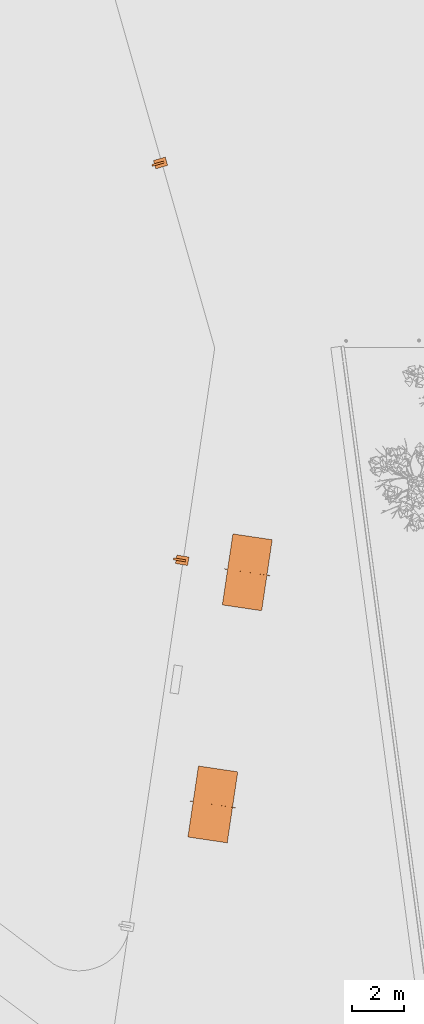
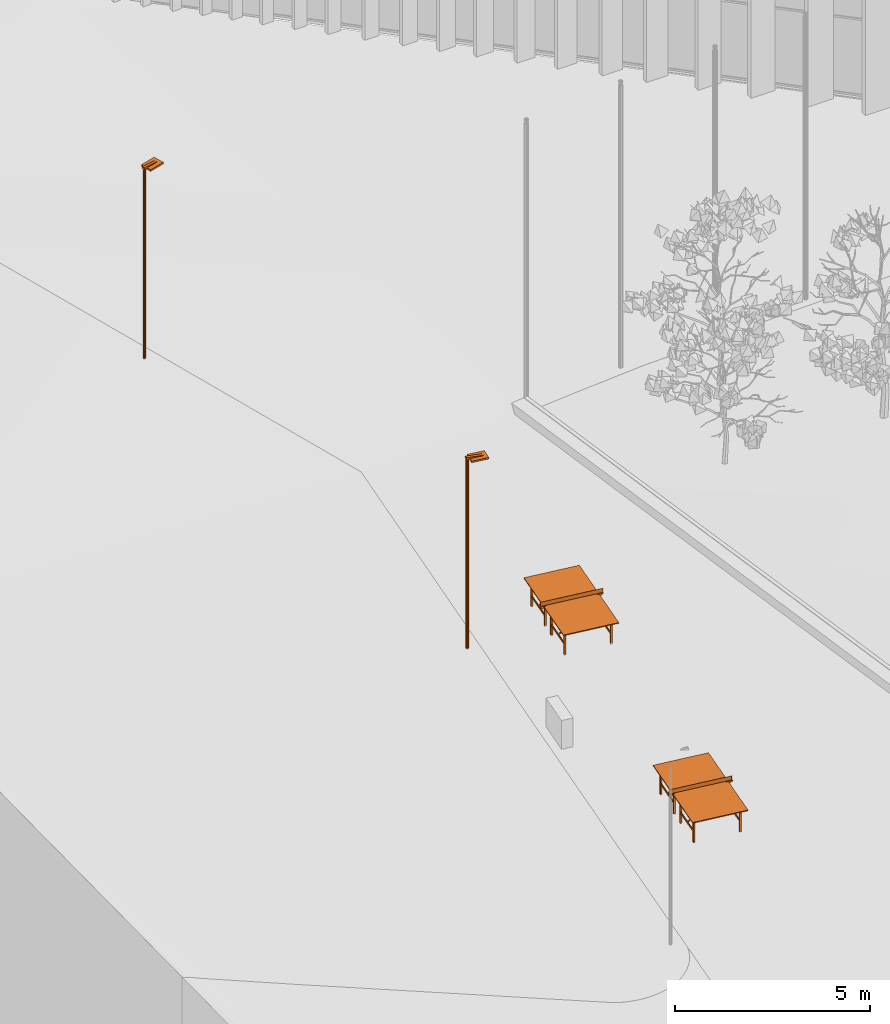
# One storey, part 204 of 246: 4 proxies.
"""IFC2X3 building model written with IfcOpenShell, lengths in millimetres."""

from ifc_helpers import new_model, entity, si_unit, converted_unit, derived_unit, money_unit, direction, frame, origin_with_axes, place, context, subcontext, project, spatial, faceted_brep, source, transform, mapped, material, type_object, element, save


model = new_model("IFC2X3")

# Units and contexts
model_context = context("Model", 3, precision=0.01, world=origin_with_axes(), true_north=direction((0.0, 1.0)))
body_context = subcontext(model_context, "Body", "Model", "MODEL_VIEW")
ifc_project = project(units=[si_unit("LENGTHUNIT", "METRE", prefix="MILLI"), si_unit("AREAUNIT", "SQUARE_METRE"), si_unit("VOLUMEUNIT", "CUBIC_METRE"), converted_unit("PLANEANGLEUNIT", "DEGREE", entity("IfcPlaneAngleMeasure", 0.0174532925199), si_unit("PLANEANGLEUNIT", "RADIAN"), dimensions=[0, 0, 0, 0, 0, 0, 0]), si_unit("SOLIDANGLEUNIT", "STERADIAN"), money_unit("EUR"), converted_unit("TIMEUNIT", "Year", entity("IfcTimeMeasure", 31556926.0), si_unit("TIMEUNIT", "SECOND"), dimensions=[0, 0, 1, 0, 0, 0, 0]), si_unit("MASSUNIT", "GRAM", prefix="KILO"), si_unit("THERMODYNAMICTEMPERATUREUNIT", "DEGREE_CELSIUS"), si_unit("LUMINOUSINTENSITYUNIT", "LUMEN"), si_unit("ENERGYUNIT", "JOULE", prefix="MEGA"), derived_unit("THERMALCONDUCTANCEUNIT", [(si_unit("POWERUNIT", "WATT"), 1), (si_unit("LENGTHUNIT", "METRE"), -1), (si_unit("THERMODYNAMICTEMPERATUREUNIT", "KELVIN"), -1)]), derived_unit("SPECIFICHEATCAPACITYUNIT", [(si_unit("ENERGYUNIT", "JOULE"), 1), (si_unit("MASSUNIT", "GRAM", prefix="KILO"), -1), (si_unit("THERMODYNAMICTEMPERATUREUNIT", "KELVIN"), -1)]), derived_unit("MASSDENSITYUNIT", [(si_unit("MASSUNIT", "GRAM", prefix="KILO"), 1), (si_unit("VOLUMEUNIT", "CUBIC_METRE"), -1)])], contexts=[model_context])

# Site, building, storey
site_placement = place(None, origin_with_axes())
site = spatial("IfcSite", under=ifc_project, at=site_placement, Name="L.Koidula tn 11b", CompositionType="ELEMENT")
building_placement = place(site_placement, origin_with_axes())
building = spatial("IfcBuilding", under=site, at=building_placement, Name="Rakvere Riigigümnaasium", CompositionType="ELEMENT")
storey_placement = place(building_placement, origin_with_axes())
storey = spatial("IfcBuildingStorey", under=building, at=storey_placement, Name="1.korrus 0,00", CompositionType="ELEMENT", Elevation=0.0)

# Proxies
ifc_material = material(Name="Alumiiniumprofiil (RAL 7021)")
building_element_proxy_type_1 = type_object("IfcBuildingElementProxyType", Name="Väls valgusti - VFL530 LED", PredefinedType="NOTDEFINED")
shared_shape_1 = source(origin_with_axes(), body_context, "Body", "Brep", [
    faceted_brep([(468.863076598, 125.0, 5952.26982842), (468.863076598, 205.0, 5952.26982842), (470.0, 205.0, 5967.74900907), (470.0, 125.0, 5967.74900907), (100.0, 205.0, 5952.26982842), (100.0, 125.0, 5952.26982842), (100.0, 205.0, 5944.7902874), (-3.66256168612, 205.0, 5952.40415243), (0.0, 205.0, 6002.26982842), (0.0, 125.0, 6002.26982842), (-3.66256168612, 125.0, 5952.40415243), (100.0, 125.0, 5944.7902874)], [[[0, 1, 2, 3]], [[4, 1, 0, 5]], [[4, 6, 7, 8, 2, 1]], [[2, 8, 9, 3]], [[5, 0, 3, 9, 10, 11]], [[6, 4, 5, 11]], [[6, 11, 10, 7]], [[8, 7, 10, 9]]]),
    faceted_brep([(100.0, 330.0, 5902.26982842), (100.0, 0.0, 5902.26982842), (100.0, 0.0, 5952.26982842), (100.0, 330.0, 5952.26982842), (570.0, 330.0, 5902.26982842), (570.0, 0.0, 5902.26982842), (570.0, 0.0, 5952.26982842), (570.0, 330.0, 5952.26982842)], [[[0, 1, 2, 3]], [[0, 4, 5, 1]], [[1, 5, 6, 2]], [[3, 2, 6, 7]], [[4, 0, 3, 7]], [[5, 4, 7, 6]]]),
    faceted_brep([(76.9551813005, 180.307337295, 5946.48289596), (80.0, 165.0, 5946.25925843), (80.0, 165.0, 0.0), (76.9551813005, 180.307337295, 0.0), (76.9551813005, 149.692662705, 5946.48289596), (68.2842712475, 193.284271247, 5947.11976174), (55.3073372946, 201.9551813, 5948.07289875), (40.0, 205.0, 5949.19720051), (24.6926627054, 201.9551813, 5950.32150226), (11.7157287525, 193.284271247, 5951.27463927), (3.04481869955, 180.307337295, 5951.91150505), (0.0, 165.0, 5952.13514258), (3.04481869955, 149.692662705, 5951.91150505), (11.7157287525, 136.715728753, 5951.27463927), (24.6926627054, 128.0448187, 5950.32150226), (40.0, 125.0, 5949.19720051), (55.3073372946, 128.0448187, 5948.07289875), (68.2842712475, 136.715728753, 5947.11976174), (76.9551813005, 149.692662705, 0.0), (3.04481869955, 149.692662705, 0.0), (0.0, 165.0, 0.0), (3.04481869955, 180.307337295, 0.0), (11.7157287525, 193.284271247, 0.0), (24.6926627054, 201.9551813, 0.0), (40.0, 205.0, 0.0), (55.3073372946, 201.9551813, 0.0), (68.2842712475, 193.284271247, 0.0), (68.2842712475, 136.715728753, 0.0), (55.3073372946, 128.0448187, 0.0), (40.0, 125.0, 0.0), (24.6926627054, 128.0448187, 0.0), (11.7157287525, 136.715728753, 0.0)], [[[0, 1, 2, 3]], [[4, 1, 0, 5, 6, 7, 8, 9, 10, 11, 12, 13, 14, 15, 16, 17]], [[1, 4, 18, 2]], [[19, 20, 21, 22, 23, 24, 25, 26, 3, 2, 18, 27, 28, 29, 30, 31]], [[5, 0, 3, 26]], [[6, 5, 26, 25]], [[7, 6, 25, 24]], [[8, 7, 24, 23]], [[9, 8, 23, 22]], [[10, 9, 22, 21]], [[11, 10, 21, 20]], [[12, 11, 20, 19]], [[13, 12, 19, 31]], [[14, 13, 31, 30]], [[15, 14, 30, 29]], [[16, 15, 29, 28]], [[17, 16, 28, 27]], [[4, 17, 27, 18]]]),
])
for number, where, z_axis, x_axis in (
    (1, (9200.68128242, 33636.8748979, -774.533350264), (0.0, 0.0, 1.0), (0.986503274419, -0.16374153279, 0.0)),
    (2, (8450.51656386, 48733.3696778, -584.74365252), (0.0, 0.0, 1.0), (0.961134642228, 0.276080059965, 0.0)),
):
    element("IfcBuildingElementProxy", number, at=place(storey_placement, frame(where, z_axis=z_axis, x_axis=x_axis)), inside=storey, type_object=building_element_proxy_type_1, material=ifc_material, Name="Tänava valgusti", context=body_context, shape_type="MappedRepresentation", body=[
        mapped(shared_shape_1, transform((0.0, 0.0, 0.0))),
    ])
building_element_proxy_type_2 = type_object("IfcBuildingElementProxyType", Name="Table Tennis 23", PredefinedType="NOTDEFINED")
shared_shape_2 = source(origin_with_axes(), body_context, "Body", "Brep", [
    faceted_brep([(-1127.0, -662.5, 0.0), (-1127.0, -612.5, 0.0), (-1127.0, -612.5, 762.0), (-1127.0, -662.5, 762.0), (-1177.0, -662.5, 0.0), (-1177.0, -612.5, 0.0), (-1177.0, -612.5, 762.0), (-1177.0, -662.5, 762.0)], [[[0, 1, 2, 3]], [[0, 4, 5, 1]], [[1, 5, 6, 2]], [[3, 2, 6, 7]], [[4, 0, 3, 7]], [[5, 4, 7, 6]]]),
    faceted_brep([(-200.0, -662.5, 0.0), (-200.0, -612.5, 0.0), (-200.0, -612.5, 762.0), (-200.0, -662.5, 762.0), (-250.0, -662.5, 0.0), (-250.0, -612.5, 0.0), (-250.0, -612.5, 762.0), (-250.0, -662.5, 762.0)], [[[0, 1, 2, 3]], [[0, 4, 5, 1]], [[1, 5, 6, 2]], [[3, 2, 6, 7]], [[4, 0, 3, 7]], [[5, 4, 7, 6]]]),
    faceted_brep([(-1127.0, -650.0, 300.0), (-250.0, -650.0, 300.0), (-250.0, -650.0, 350.0), (-1127.0, -650.0, 350.0), (-1127.0, -625.0, 300.0), (-250.0, -625.0, 300.0), (-250.0, -625.0, 350.0), (-1127.0, -625.0, 350.0)], [[[0, 1, 2, 3]], [[0, 4, 5, 1]], [[1, 5, 6, 2]], [[3, 2, 6, 7]], [[4, 0, 3, 7]], [[5, 4, 7, 6]]]),
    faceted_brep([(-738.5, -25.0, 732.0), (-638.5, -25.0, 732.0), (-638.5, -25.0, 762.0), (-738.5, -25.0, 762.0), (-738.5, 0.0, 732.0), (-638.5, 0.0, 732.0), (-638.5, 0.0, 762.0), (-738.5, 0.0, 762.0)], [[[0, 1, 2, 3]], [[0, 4, 5, 1]], [[1, 5, 6, 2]], [[3, 2, 6, 7]], [[4, 0, 3, 7]], [[5, 4, 7, 6]]]),
    faceted_brep([(-708.5, 0.0, 732.0), (-708.5, 615.0, 332.0), (-668.5, 615.0, 332.0), (-668.5, 0.0, 732.0), (-708.5, 25.0, 732.0), (-708.5, 615.0, 350.0), (-668.5, 615.0, 350.0), (-668.5, 25.0, 732.0)], [[[0, 1, 2, 3]], [[0, 4, 5, 1]], [[1, 5, 6, 2]], [[3, 2, 6, 7]], [[4, 0, 3, 7]], [[5, 4, 7, 6]]]),
    faceted_brep([(-718.5, 615.0, 307.0), (-718.5, 625.0, 307.0), (-658.5, 625.0, 307.0), (-658.5, 615.0, 307.0), (-718.5, 615.0, 350.0), (-718.5, 625.0, 350.0), (-658.5, 625.0, 350.0), (-658.5, 615.0, 350.0)], [[[0, 1, 2, 3]], [[0, 4, 5, 1]], [[1, 5, 6, 2]], [[3, 2, 6, 7]], [[4, 0, 3, 7]], [[5, 4, 7, 6]]]),
    faceted_brep([(-250.0, 662.5, 0.0), (-250.0, 612.5, 0.0), (-250.0, 612.5, 762.0), (-250.0, 662.5, 762.0), (-200.0, 662.5, 0.0), (-200.0, 612.5, 0.0), (-200.0, 612.5, 762.0), (-200.0, 662.5, 762.0)], [[[0, 1, 2, 3]], [[0, 4, 5, 1]], [[1, 5, 6, 2]], [[3, 2, 6, 7]], [[4, 0, 3, 7]], [[5, 4, 7, 6]]]),
    faceted_brep([(-1177.0, 662.5, 0.0), (-1177.0, 612.5, 0.0), (-1177.0, 612.5, 762.0), (-1177.0, 662.5, 762.0), (-1127.0, 662.5, 0.0), (-1127.0, 612.5, 0.0), (-1127.0, 612.5, 762.0), (-1127.0, 662.5, 762.0)], [[[0, 1, 2, 3]], [[0, 4, 5, 1]], [[1, 5, 6, 2]], [[3, 2, 6, 7]], [[4, 0, 3, 7]], [[5, 4, 7, 6]]]),
    faceted_brep([(-250.0, 650.0, 300.0), (-1127.0, 650.0, 300.0), (-1127.0, 650.0, 350.0), (-250.0, 650.0, 350.0), (-250.0, 625.0, 300.0), (-1127.0, 625.0, 300.0), (-1127.0, 625.0, 350.0), (-250.0, 625.0, 350.0)], [[[0, 1, 2, 3]], [[0, 4, 5, 1]], [[1, 5, 6, 2]], [[3, 2, 6, 7]], [[4, 0, 3, 7]], [[5, 4, 7, 6]]]),
    faceted_brep([(-638.5, 25.0, 732.0), (-738.5, 25.0, 732.0), (-738.5, 25.0, 762.0), (-638.5, 25.0, 762.0), (-638.5, 0.0, 732.0), (-738.5, 0.0, 732.0), (-738.5, 0.0, 762.0), (-638.5, 0.0, 762.0)], [[[0, 1, 2, 3]], [[0, 4, 5, 1]], [[1, 5, 6, 2]], [[3, 2, 6, 7]], [[4, 0, 3, 7]], [[5, 4, 7, 6]]]),
    faceted_brep([(-668.5, 0.0, 732.0), (-668.5, -615.0, 332.0), (-708.5, -615.0, 332.0), (-708.5, 0.0, 732.0), (-668.5, -25.0, 732.0), (-668.5, -615.0, 350.0), (-708.5, -615.0, 350.0), (-708.5, -25.0, 732.0)], [[[0, 1, 2, 3]], [[0, 4, 5, 1]], [[1, 5, 6, 2]], [[3, 2, 6, 7]], [[4, 0, 3, 7]], [[5, 4, 7, 6]]]),
    faceted_brep([(-658.5, -615.0, 307.0), (-658.5, -625.0, 307.0), (-718.5, -625.0, 307.0), (-718.5, -615.0, 307.0), (-658.5, -615.0, 350.0), (-658.5, -625.0, 350.0), (-718.5, -625.0, 350.0), (-718.5, -615.0, 350.0)], [[[0, 1, 2, 3]], [[0, 4, 5, 1]], [[1, 5, 6, 2]], [[3, 2, 6, 7]], [[4, 0, 3, 7]], [[5, 4, 7, 6]]]),
    faceted_brep([(-1377.0, -762.5, 762.0), (0.0, -762.5, 762.0), (0.0, -762.5, 787.0), (-1377.0, -762.5, 787.0), (-1377.0, 762.5, 762.0), (0.0, 762.5, 762.0), (0.0, 762.5, 787.0), (-1377.0, 762.5, 787.0)], [[[0, 1, 2, 3]], [[0, 4, 5, 1]], [[1, 5, 6, 2]], [[3, 2, 6, 7]], [[4, 0, 3, 7]], [[5, 4, 7, 6]]]),
    faceted_brep([(-1357.0, -742.5, 787.0), (0.0, -742.5, 787.0), (0.0, -742.5, 789.0), (-1357.0, -742.5, 789.0), (-1357.0, -10.0, 787.0), (-50.0, -10.0, 787.0), (-50.0, 10.0, 787.0), (-1357.0, 10.0, 787.0), (-1357.0, 742.5, 787.0), (0.0, 742.5, 787.0), (0.0, 742.5, 789.0), (-1357.0, 742.5, 789.0), (-1357.0, 10.0, 789.0), (-50.0, 10.0, 789.0), (-50.0, -10.0, 789.0), (-1357.0, -10.0, 789.0)], [[[0, 1, 2, 3]], [[0, 4, 5, 6, 7, 8, 9, 1]], [[1, 9, 10, 2]], [[3, 2, 10, 11, 12, 13, 14, 15]], [[4, 0, 3, 15]], [[5, 4, 15, 14]], [[6, 5, 14, 13]], [[7, 6, 13, 12]], [[8, 7, 12, 11]], [[9, 8, 11, 10]]]),
    faceted_brep([(-1377.0, -762.5, 787.0), (0.0, -762.5, 787.0), (0.0, -762.5, 789.0), (-1377.0, -762.5, 789.0), (-1377.0, 762.5, 787.0), (0.0, 762.5, 787.0), (0.0, 742.5, 787.0), (-1357.0, 742.5, 787.0), (-1357.0, 10.0, 787.0), (-50.0, 10.0, 787.0), (-50.0, -10.0, 787.0), (-1357.0, -10.0, 787.0), (-1357.0, -742.5, 787.0), (0.0, -742.5, 787.0), (0.0, -742.5, 789.0), (-1357.0, -742.5, 789.0), (-1357.0, -10.0, 789.0), (-50.0, -10.0, 789.0), (-50.0, 10.0, 789.0), (-1357.0, 10.0, 789.0), (-1357.0, 742.5, 789.0), (0.0, 742.5, 789.0), (0.0, 762.5, 789.0), (-1377.0, 762.5, 789.0)], [[[0, 1, 2, 3]], [[0, 4, 5, 6, 7, 8, 9, 10, 11, 12, 13, 1]], [[1, 13, 14, 2]], [[3, 2, 14, 15, 16, 17, 18, 19, 20, 21, 22, 23]], [[4, 0, 3, 23]], [[5, 4, 23, 22]], [[6, 5, 22, 21]], [[7, 6, 21, 20]], [[8, 7, 20, 19]], [[9, 8, 19, 18]], [[10, 9, 18, 17]], [[11, 10, 17, 16]], [[12, 11, 16, 15]], [[13, 12, 15, 14]]]),
    faceted_brep([(10.0, -722.5, 729.0), (10.0, -812.5, 729.0), (-10.0, -812.5, 729.0), (-10.0, -722.5, 729.0), (10.0, -722.5, 749.0), (10.0, -762.5, 749.0), (10.0, -762.5, 789.0), (10.0, -702.5, 789.0), (10.0, -712.5, 799.0), (10.0, -882.5, 799.0), (10.0, -882.5, 779.0), (-10.0, -882.5, 779.0), (-10.0, -882.5, 799.0), (-10.0, -712.5, 799.0), (-10.0, -702.5, 789.0), (-10.0, -762.5, 789.0), (-10.0, -762.5, 749.0), (-10.0, -722.5, 749.0)], [[[0, 1, 2, 3]], [[0, 4, 5, 6, 7, 8, 9, 10, 1]], [[1, 10, 11, 2]], [[3, 2, 11, 12, 13, 14, 15, 16, 17]], [[4, 0, 3, 17]], [[5, 4, 17, 16]], [[6, 5, 16, 15]], [[7, 6, 15, 14]], [[8, 7, 14, 13]], [[9, 8, 13, 12]], [[10, 9, 12, 11]]]),
    faceted_brep([(-4.33012701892, -865.0, 799.0), (-4.33012701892, -860.0, 799.0), (0.0, -857.5, 799.0), (4.33012701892, -860.0, 799.0), (4.33012701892, -865.0, 799.0), (0.0, -867.5, 799.0), (-4.33012701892, -865.0, 949.0), (-4.33012701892, -860.0, 949.0), (0.0, -857.5, 949.0), (4.33012701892, -860.0, 949.0), (4.33012701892, -865.0, 949.0), (0.0, -867.5, 949.0)], [[[0, 1, 2, 3, 4, 5]], [[1, 0, 6, 7]], [[2, 1, 7, 8]], [[3, 2, 8, 9]], [[4, 3, 9, 10]], [[5, 4, 10, 11]], [[0, 5, 11, 6]], [[6, 11, 10, 9, 8, 7]]]),
    faceted_brep([(-8.66025403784, -747.5, 759.5), (-8.66025403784, -737.5, 759.5), (0.0, -732.5, 759.5), (8.66025403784, -737.5, 759.5), (8.66025403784, -747.5, 759.5), (0.0, -752.5, 759.5), (-8.66025403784, -747.5, 762.0), (-8.66025403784, -737.5, 762.0), (0.0, -732.5, 762.0), (8.66025403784, -737.5, 762.0), (8.66025403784, -747.5, 762.0), (0.0, -752.5, 762.0)], [[[0, 1, 2, 3, 4, 5]], [[1, 0, 6, 7]], [[2, 1, 7, 8]], [[3, 2, 8, 9]], [[4, 3, 9, 10]], [[5, 4, 10, 11]], [[0, 5, 11, 6]], [[6, 11, 10, 9, 8, 7]]]),
    faceted_brep([(-1.60696902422, -744.415111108, 749.0), (-2.46201938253, -742.934120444, 749.0), (-2.16506350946, -741.25, 749.0), (-0.855050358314, -740.150768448, 749.0), (0.855050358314, -740.150768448, 749.0), (2.16506350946, -741.25, 749.0), (2.46201938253, -742.934120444, 749.0), (1.60696902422, -744.415111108, 749.0), (0.0, -745.0, 749.0), (-1.60696902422, -744.415111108, 759.5), (-2.46201938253, -742.934120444, 759.5), (-2.16506350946, -741.25, 759.5), (-0.855050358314, -740.150768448, 759.5), (0.855050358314, -740.150768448, 759.5), (2.16506350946, -741.25, 759.5), (2.46201938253, -742.934120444, 759.5), (1.60696902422, -744.415111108, 759.5), (0.0, -745.0, 759.5)], [[[0, 1, 2, 3, 4, 5, 6, 7, 8]], [[1, 0, 9, 10]], [[2, 1, 10, 11]], [[3, 2, 11, 12]], [[4, 3, 12, 13]], [[5, 4, 13, 14]], [[6, 5, 14, 15]], [[7, 6, 15, 16]], [[8, 7, 16, 17]], [[0, 8, 17, 9]], [[9, 17, 16, 15, 14, 13, 12, 11, 10]]]),
    faceted_brep([(-1.60696902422, -744.415111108, 709.0), (-2.46201938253, -742.934120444, 709.0), (-2.16506350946, -741.25, 709.0), (-0.855050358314, -740.150768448, 709.0), (0.855050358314, -740.150768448, 709.0), (2.16506350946, -741.25, 709.0), (2.46201938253, -742.934120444, 709.0), (1.60696902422, -744.415111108, 709.0), (0.0, -745.0, 709.0), (-1.60696902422, -744.415111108, 729.0), (-2.46201938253, -742.934120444, 729.0), (-2.16506350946, -741.25, 729.0), (-0.855050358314, -740.150768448, 729.0), (0.855050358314, -740.150768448, 729.0), (2.16506350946, -741.25, 729.0), (2.46201938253, -742.934120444, 729.0), (1.60696902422, -744.415111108, 729.0), (0.0, -745.0, 729.0)], [[[0, 1, 2, 3, 4, 5, 6, 7, 8]], [[1, 0, 9, 10]], [[2, 1, 10, 11]], [[3, 2, 11, 12]], [[4, 3, 12, 13]], [[5, 4, 13, 14]], [[6, 5, 14, 15]], [[7, 6, 15, 16]], [[8, 7, 16, 17]], [[0, 8, 17, 9]], [[9, 17, 16, 15, 14, 13, 12, 11, 10]]]),
    faceted_brep([(-3.21393804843, -746.330222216, 704.0), (-4.92403876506, -743.368240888, 704.0), (-4.33012701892, -740.0, 704.0), (-1.71010071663, -737.801536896, 704.0), (1.71010071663, -737.801536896, 704.0), (4.33012701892, -740.0, 704.0), (4.92403876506, -743.368240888, 704.0), (3.21393804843, -746.330222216, 704.0), (0.0, -747.5, 704.0), (-3.21393804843, -746.330222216, 709.0), (-4.92403876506, -743.368240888, 709.0), (-4.33012701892, -740.0, 709.0), (-1.71010071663, -737.801536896, 709.0), (1.71010071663, -737.801536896, 709.0), (4.33012701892, -740.0, 709.0), (4.92403876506, -743.368240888, 709.0), (3.21393804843, -746.330222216, 709.0), (0.0, -747.5, 709.0)], [[[0, 1, 2, 3, 4, 5, 6, 7, 8]], [[1, 0, 9, 10]], [[2, 1, 10, 11]], [[3, 2, 11, 12]], [[4, 3, 12, 13]], [[5, 4, 13, 14]], [[6, 5, 14, 15]], [[7, 6, 15, 16]], [[8, 7, 16, 17]], [[0, 8, 17, 9]], [[9, 17, 16, 15, 14, 13, 12, 11, 10]]]),
    faceted_brep([(-6.42787609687, -750.160444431, 697.0), (-9.84807753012, -744.236481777, 697.0), (-8.66025403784, -737.5, 697.0), (-3.42020143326, -733.103073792, 697.0), (3.42020143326, -733.103073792, 697.0), (8.66025403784, -737.5, 697.0), (9.84807753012, -744.236481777, 697.0), (6.42787609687, -750.160444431, 697.0), (0.0, -752.5, 697.0), (-6.42787609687, -750.160444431, 704.0), (-9.84807753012, -744.236481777, 704.0), (-8.66025403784, -737.5, 704.0), (-3.42020143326, -733.103073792, 704.0), (3.42020143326, -733.103073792, 704.0), (8.66025403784, -737.5, 704.0), (9.84807753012, -744.236481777, 704.0), (6.42787609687, -750.160444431, 704.0), (0.0, -752.5, 704.0)], [[[0, 1, 2, 3, 4, 5, 6, 7, 8]], [[1, 0, 9, 10]], [[2, 1, 10, 11]], [[3, 2, 11, 12]], [[4, 3, 12, 13]], [[5, 4, 13, 14]], [[6, 5, 14, 15]], [[7, 6, 15, 16]], [[8, 7, 16, 17]], [[0, 8, 17, 9]], [[9, 17, 16, 15, 14, 13, 12, 11, 10]]]),
    faceted_brep([(1127.0, 662.5, 0.0), (1127.0, 612.5, 0.0), (1127.0, 612.5, 762.0), (1127.0, 662.5, 762.0), (1177.0, 662.5, 0.0), (1177.0, 612.5, 0.0), (1177.0, 612.5, 762.0), (1177.0, 662.5, 762.0)], [[[0, 1, 2, 3]], [[0, 4, 5, 1]], [[1, 5, 6, 2]], [[3, 2, 6, 7]], [[4, 0, 3, 7]], [[5, 4, 7, 6]]]),
    faceted_brep([(200.0, 662.5, 0.0), (200.0, 612.5, 0.0), (200.0, 612.5, 762.0), (200.0, 662.5, 762.0), (250.0, 662.5, 0.0), (250.0, 612.5, 0.0), (250.0, 612.5, 762.0), (250.0, 662.5, 762.0)], [[[0, 1, 2, 3]], [[0, 4, 5, 1]], [[1, 5, 6, 2]], [[3, 2, 6, 7]], [[4, 0, 3, 7]], [[5, 4, 7, 6]]]),
    faceted_brep([(1127.0, 650.0, 300.0), (250.0, 650.0, 300.0), (250.0, 650.0, 350.0), (1127.0, 650.0, 350.0), (1127.0, 625.0, 300.0), (250.0, 625.0, 300.0), (250.0, 625.0, 350.0), (1127.0, 625.0, 350.0)], [[[0, 1, 2, 3]], [[0, 4, 5, 1]], [[1, 5, 6, 2]], [[3, 2, 6, 7]], [[4, 0, 3, 7]], [[5, 4, 7, 6]]]),
    faceted_brep([(738.5, 25.0, 732.0), (638.5, 25.0, 732.0), (638.5, 25.0, 762.0), (738.5, 25.0, 762.0), (738.5, 0.0, 732.0), (638.5, 0.0, 732.0), (638.5, 0.0, 762.0), (738.5, 0.0, 762.0)], [[[0, 1, 2, 3]], [[0, 4, 5, 1]], [[1, 5, 6, 2]], [[3, 2, 6, 7]], [[4, 0, 3, 7]], [[5, 4, 7, 6]]]),
    faceted_brep([(708.5, 0.0, 732.0), (708.5, -615.0, 332.0), (668.5, -615.0, 332.0), (668.5, 0.0, 732.0), (708.5, -25.0, 732.0), (708.5, -615.0, 350.0), (668.5, -615.0, 350.0), (668.5, -25.0, 732.0)], [[[0, 1, 2, 3]], [[0, 4, 5, 1]], [[1, 5, 6, 2]], [[3, 2, 6, 7]], [[4, 0, 3, 7]], [[5, 4, 7, 6]]]),
    faceted_brep([(718.5, -615.0, 307.0), (718.5, -625.0, 307.0), (658.5, -625.0, 307.0), (658.5, -615.0, 307.0), (718.5, -615.0, 350.0), (718.5, -625.0, 350.0), (658.5, -625.0, 350.0), (658.5, -615.0, 350.0)], [[[0, 1, 2, 3]], [[0, 4, 5, 1]], [[1, 5, 6, 2]], [[3, 2, 6, 7]], [[4, 0, 3, 7]], [[5, 4, 7, 6]]]),
    faceted_brep([(250.0, -662.5, 0.0), (250.0, -612.5, 0.0), (250.0, -612.5, 762.0), (250.0, -662.5, 762.0), (200.0, -662.5, 0.0), (200.0, -612.5, 0.0), (200.0, -612.5, 762.0), (200.0, -662.5, 762.0)], [[[0, 1, 2, 3]], [[0, 4, 5, 1]], [[1, 5, 6, 2]], [[3, 2, 6, 7]], [[4, 0, 3, 7]], [[5, 4, 7, 6]]]),
    faceted_brep([(1177.0, -662.5, 0.0), (1177.0, -612.5, 0.0), (1177.0, -612.5, 762.0), (1177.0, -662.5, 762.0), (1127.0, -662.5, 0.0), (1127.0, -612.5, 0.0), (1127.0, -612.5, 762.0), (1127.0, -662.5, 762.0)], [[[0, 1, 2, 3]], [[0, 4, 5, 1]], [[1, 5, 6, 2]], [[3, 2, 6, 7]], [[4, 0, 3, 7]], [[5, 4, 7, 6]]]),
    faceted_brep([(250.0, -650.0, 300.0), (1127.0, -650.0, 300.0), (1127.0, -650.0, 350.0), (250.0, -650.0, 350.0), (250.0, -625.0, 300.0), (1127.0, -625.0, 300.0), (1127.0, -625.0, 350.0), (250.0, -625.0, 350.0)], [[[0, 1, 2, 3]], [[0, 4, 5, 1]], [[1, 5, 6, 2]], [[3, 2, 6, 7]], [[4, 0, 3, 7]], [[5, 4, 7, 6]]]),
    faceted_brep([(638.5, -25.0, 732.0), (738.5, -25.0, 732.0), (738.5, -25.0, 762.0), (638.5, -25.0, 762.0), (638.5, 0.0, 732.0), (738.5, 0.0, 732.0), (738.5, 0.0, 762.0), (638.5, 0.0, 762.0)], [[[0, 1, 2, 3]], [[0, 4, 5, 1]], [[1, 5, 6, 2]], [[3, 2, 6, 7]], [[4, 0, 3, 7]], [[5, 4, 7, 6]]]),
    faceted_brep([(668.5, 0.0, 732.0), (668.5, 615.0, 332.0), (708.5, 615.0, 332.0), (708.5, 0.0, 732.0), (668.5, 25.0, 732.0), (668.5, 615.0, 350.0), (708.5, 615.0, 350.0), (708.5, 25.0, 732.0)], [[[0, 1, 2, 3]], [[0, 4, 5, 1]], [[1, 5, 6, 2]], [[3, 2, 6, 7]], [[4, 0, 3, 7]], [[5, 4, 7, 6]]]),
    faceted_brep([(658.5, 615.0, 307.0), (658.5, 625.0, 307.0), (718.5, 625.0, 307.0), (718.5, 615.0, 307.0), (658.5, 615.0, 350.0), (658.5, 625.0, 350.0), (718.5, 625.0, 350.0), (718.5, 615.0, 350.0)], [[[0, 1, 2, 3]], [[0, 4, 5, 1]], [[1, 5, 6, 2]], [[3, 2, 6, 7]], [[4, 0, 3, 7]], [[5, 4, 7, 6]]]),
    faceted_brep([(1377.0, 762.5, 762.0), (0.0, 762.5, 762.0), (0.0, 762.5, 787.0), (1377.0, 762.5, 787.0), (1377.0, -762.5, 762.0), (0.0, -762.5, 762.0), (0.0, -762.5, 787.0), (1377.0, -762.5, 787.0)], [[[0, 1, 2, 3]], [[0, 4, 5, 1]], [[1, 5, 6, 2]], [[3, 2, 6, 7]], [[4, 0, 3, 7]], [[5, 4, 7, 6]]]),
    faceted_brep([(1357.0, 742.5, 787.0), (0.0, 742.5, 787.0), (0.0, 742.5, 789.0), (1357.0, 742.5, 789.0), (1357.0, 10.0, 787.0), (50.0, 10.0, 787.0), (50.0, -10.0, 787.0), (1357.0, -10.0, 787.0), (1357.0, -742.5, 787.0), (0.0, -742.5, 787.0), (0.0, -742.5, 789.0), (1357.0, -742.5, 789.0), (1357.0, -10.0, 789.0), (50.0, -10.0, 789.0), (50.0, 10.0, 789.0), (1357.0, 10.0, 789.0)], [[[0, 1, 2, 3]], [[0, 4, 5, 6, 7, 8, 9, 1]], [[1, 9, 10, 2]], [[3, 2, 10, 11, 12, 13, 14, 15]], [[4, 0, 3, 15]], [[5, 4, 15, 14]], [[6, 5, 14, 13]], [[7, 6, 13, 12]], [[8, 7, 12, 11]], [[9, 8, 11, 10]]]),
    faceted_brep([(1377.0, 762.5, 787.0), (0.0, 762.5, 787.0), (0.0, 762.5, 789.0), (1377.0, 762.5, 789.0), (1377.0, -762.5, 787.0), (0.0, -762.5, 787.0), (0.0, -742.5, 787.0), (1357.0, -742.5, 787.0), (1357.0, -10.0, 787.0), (50.0, -10.0, 787.0), (50.0, 10.0, 787.0), (1357.0, 10.0, 787.0), (1357.0, 742.5, 787.0), (0.0, 742.5, 787.0), (0.0, 742.5, 789.0), (1357.0, 742.5, 789.0), (1357.0, 10.0, 789.0), (50.0, 10.0, 789.0), (50.0, -10.0, 789.0), (1357.0, -10.0, 789.0), (1357.0, -742.5, 789.0), (0.0, -742.5, 789.0), (0.0, -762.5, 789.0), (1377.0, -762.5, 789.0)], [[[0, 1, 2, 3]], [[0, 4, 5, 6, 7, 8, 9, 10, 11, 12, 13, 1]], [[1, 13, 14, 2]], [[3, 2, 14, 15, 16, 17, 18, 19, 20, 21, 22, 23]], [[4, 0, 3, 23]], [[5, 4, 23, 22]], [[6, 5, 22, 21]], [[7, 6, 21, 20]], [[8, 7, 20, 19]], [[9, 8, 19, 18]], [[10, 9, 18, 17]], [[11, 10, 17, 16]], [[12, 11, 16, 15]], [[13, 12, 15, 14]]]),
    faceted_brep([(-10.0, 722.5, 729.0), (-10.0, 812.5, 729.0), (10.0, 812.5, 729.0), (10.0, 722.5, 729.0), (-10.0, 722.5, 749.0), (-10.0, 762.5, 749.0), (-10.0, 762.5, 789.0), (-10.0, 702.5, 789.0), (-10.0, 712.5, 799.0), (-10.0, 882.5, 799.0), (-10.0, 882.5, 779.0), (10.0, 882.5, 779.0), (10.0, 882.5, 799.0), (10.0, 712.5, 799.0), (10.0, 702.5, 789.0), (10.0, 762.5, 789.0), (10.0, 762.5, 749.0), (10.0, 722.5, 749.0)], [[[0, 1, 2, 3]], [[0, 4, 5, 6, 7, 8, 9, 10, 1]], [[1, 10, 11, 2]], [[3, 2, 11, 12, 13, 14, 15, 16, 17]], [[4, 0, 3, 17]], [[5, 4, 17, 16]], [[6, 5, 16, 15]], [[7, 6, 15, 14]], [[8, 7, 14, 13]], [[9, 8, 13, 12]], [[10, 9, 12, 11]]]),
    faceted_brep([(4.33012701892, 865.0, 799.0), (4.33012701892, 860.0, 799.0), (0.0, 857.5, 799.0), (-4.33012701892, 860.0, 799.0), (-4.33012701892, 865.0, 799.0), (0.0, 867.5, 799.0), (4.33012701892, 865.0, 949.0), (4.33012701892, 860.0, 949.0), (0.0, 857.5, 949.0), (-4.33012701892, 860.0, 949.0), (-4.33012701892, 865.0, 949.0), (0.0, 867.5, 949.0)], [[[0, 1, 2, 3, 4, 5]], [[1, 0, 6, 7]], [[2, 1, 7, 8]], [[3, 2, 8, 9]], [[4, 3, 9, 10]], [[5, 4, 10, 11]], [[0, 5, 11, 6]], [[6, 11, 10, 9, 8, 7]]]),
    faceted_brep([(8.66025403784, 747.5, 759.5), (8.66025403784, 737.5, 759.5), (0.0, 732.5, 759.5), (-8.66025403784, 737.5, 759.5), (-8.66025403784, 747.5, 759.5), (0.0, 752.5, 759.5), (8.66025403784, 747.5, 762.0), (8.66025403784, 737.5, 762.0), (0.0, 732.5, 762.0), (-8.66025403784, 737.5, 762.0), (-8.66025403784, 747.5, 762.0), (0.0, 752.5, 762.0)], [[[0, 1, 2, 3, 4, 5]], [[1, 0, 6, 7]], [[2, 1, 7, 8]], [[3, 2, 8, 9]], [[4, 3, 9, 10]], [[5, 4, 10, 11]], [[0, 5, 11, 6]], [[6, 11, 10, 9, 8, 7]]]),
    faceted_brep([(1.60696902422, 744.415111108, 749.0), (2.46201938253, 742.934120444, 749.0), (2.16506350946, 741.25, 749.0), (0.855050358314, 740.150768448, 749.0), (-0.855050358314, 740.150768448, 749.0), (-2.16506350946, 741.25, 749.0), (-2.46201938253, 742.934120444, 749.0), (-1.60696902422, 744.415111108, 749.0), (0.0, 745.0, 749.0), (1.60696902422, 744.415111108, 759.5), (2.46201938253, 742.934120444, 759.5), (2.16506350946, 741.25, 759.5), (0.855050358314, 740.150768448, 759.5), (-0.855050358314, 740.150768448, 759.5), (-2.16506350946, 741.25, 759.5), (-2.46201938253, 742.934120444, 759.5), (-1.60696902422, 744.415111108, 759.5), (0.0, 745.0, 759.5)], [[[0, 1, 2, 3, 4, 5, 6, 7, 8]], [[1, 0, 9, 10]], [[2, 1, 10, 11]], [[3, 2, 11, 12]], [[4, 3, 12, 13]], [[5, 4, 13, 14]], [[6, 5, 14, 15]], [[7, 6, 15, 16]], [[8, 7, 16, 17]], [[0, 8, 17, 9]], [[9, 17, 16, 15, 14, 13, 12, 11, 10]]]),
    faceted_brep([(1.60696902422, 744.415111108, 709.0), (2.46201938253, 742.934120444, 709.0), (2.16506350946, 741.25, 709.0), (0.855050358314, 740.150768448, 709.0), (-0.855050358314, 740.150768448, 709.0), (-2.16506350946, 741.25, 709.0), (-2.46201938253, 742.934120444, 709.0), (-1.60696902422, 744.415111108, 709.0), (0.0, 745.0, 709.0), (1.60696902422, 744.415111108, 729.0), (2.46201938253, 742.934120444, 729.0), (2.16506350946, 741.25, 729.0), (0.855050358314, 740.150768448, 729.0), (-0.855050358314, 740.150768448, 729.0), (-2.16506350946, 741.25, 729.0), (-2.46201938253, 742.934120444, 729.0), (-1.60696902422, 744.415111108, 729.0), (0.0, 745.0, 729.0)], [[[0, 1, 2, 3, 4, 5, 6, 7, 8]], [[1, 0, 9, 10]], [[2, 1, 10, 11]], [[3, 2, 11, 12]], [[4, 3, 12, 13]], [[5, 4, 13, 14]], [[6, 5, 14, 15]], [[7, 6, 15, 16]], [[8, 7, 16, 17]], [[0, 8, 17, 9]], [[9, 17, 16, 15, 14, 13, 12, 11, 10]]]),
    faceted_brep([(3.21393804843, 746.330222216, 704.0), (4.92403876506, 743.368240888, 704.0), (4.33012701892, 740.0, 704.0), (1.71010071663, 737.801536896, 704.0), (-1.71010071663, 737.801536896, 704.0), (-4.33012701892, 740.0, 704.0), (-4.92403876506, 743.368240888, 704.0), (-3.21393804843, 746.330222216, 704.0), (0.0, 747.5, 704.0), (3.21393804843, 746.330222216, 709.0), (4.92403876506, 743.368240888, 709.0), (4.33012701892, 740.0, 709.0), (1.71010071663, 737.801536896, 709.0), (-1.71010071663, 737.801536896, 709.0), (-4.33012701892, 740.0, 709.0), (-4.92403876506, 743.368240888, 709.0), (-3.21393804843, 746.330222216, 709.0), (0.0, 747.5, 709.0)], [[[0, 1, 2, 3, 4, 5, 6, 7, 8]], [[1, 0, 9, 10]], [[2, 1, 10, 11]], [[3, 2, 11, 12]], [[4, 3, 12, 13]], [[5, 4, 13, 14]], [[6, 5, 14, 15]], [[7, 6, 15, 16]], [[8, 7, 16, 17]], [[0, 8, 17, 9]], [[9, 17, 16, 15, 14, 13, 12, 11, 10]]]),
    faceted_brep([(6.42787609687, 750.160444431, 697.0), (9.84807753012, 744.236481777, 697.0), (8.66025403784, 737.5, 697.0), (3.42020143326, 733.103073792, 697.0), (-3.42020143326, 733.103073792, 697.0), (-8.66025403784, 737.5, 697.0), (-9.84807753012, 744.236481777, 697.0), (-6.42787609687, 750.160444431, 697.0), (0.0, 752.5, 697.0), (6.42787609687, 750.160444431, 704.0), (9.84807753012, 744.236481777, 704.0), (8.66025403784, 737.5, 704.0), (3.42020143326, 733.103073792, 704.0), (-3.42020143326, 733.103073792, 704.0), (-8.66025403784, 737.5, 704.0), (-9.84807753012, 744.236481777, 704.0), (-6.42787609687, 750.160444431, 704.0), (0.0, 752.5, 704.0)], [[[0, 1, 2, 3, 4, 5, 6, 7, 8]], [[1, 0, 9, 10]], [[2, 1, 10, 11]], [[3, 2, 11, 12]], [[4, 3, 12, 13]], [[5, 4, 13, 14]], [[6, 5, 14, 15]], [[7, 6, 15, 16]], [[8, 7, 16, 17]], [[0, 8, 17, 9]], [[9, 17, 16, 15, 14, 13, 12, 11, 10]]]),
    faceted_brep([(-1.0, -857.5, 809.0), (1.0, -857.5, 809.0), (1.0, -857.5, 939.0), (-1.0, -857.5, 939.0), (1.0, 857.5, 809.0), (1.0, 857.5, 939.0)], [[[0, 1, 2, 3]], [[0, 4, 1]], [[1, 4, 5, 2]], [[3, 2, 5]], [[4, 0, 3, 5]]]),
])
for number, where, z_axis, x_axis, name in (
    (3, (10732.0821453, 24381.236571, -714.714129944), (0.0, 0.0, 1.0), (0.14677082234, 0.98917052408, 0.0), "Tennis-01"),
    (4, (12053.0195403, 33283.7712878, -714.714129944), (0.0, 0.0, 1.0), (0.14677082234, 0.98917052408, 0.0), "Tennis-01"),
):
    element("IfcBuildingElementProxy", number, at=place(storey_placement, frame(where, z_axis=z_axis, x_axis=x_axis)), inside=storey, type_object=building_element_proxy_type_2, Name=name, context=body_context, shape_type="MappedRepresentation", body=[
        mapped(shared_shape_2, transform((0.0, 0.0, 0.0))),
    ])

save(model, "model.ifc")
